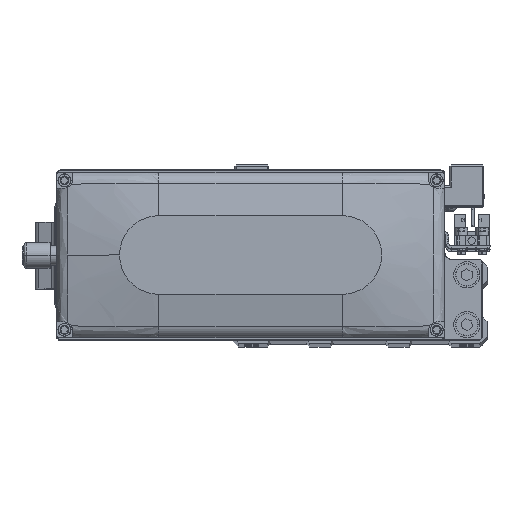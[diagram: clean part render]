
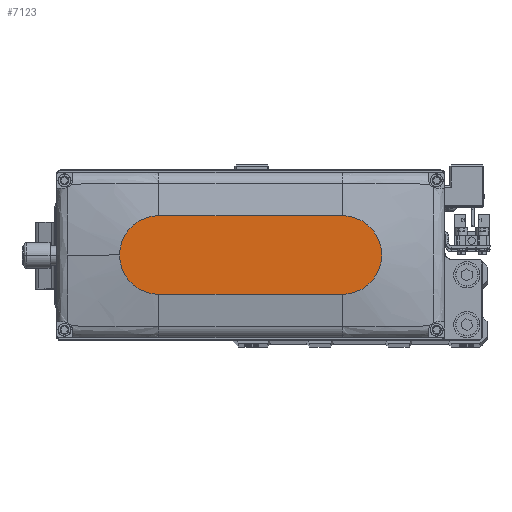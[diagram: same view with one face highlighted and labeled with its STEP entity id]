
A CAD part, top view. The second image highlights one B-rep face of the part: STEP entity #7123.
In plain terms, the highlighted planar face has unit normal (0, 0, 1).
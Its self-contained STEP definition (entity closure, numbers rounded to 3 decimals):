
#921 = AXIS2_PLACEMENT_3D ( 'NONE', #25040, #38208, #8563 ) ;
#2082 = CARTESIAN_POINT ( 'NONE',  ( 35., 0., 35. ) ) ;
#2226 = CARTESIAN_POINT ( 'NONE',  ( -35., -15., 35. ) ) ;
#6043 = VERTEX_POINT ( 'NONE', #35486 ) ;
#6355 = ORIENTED_EDGE ( 'NONE', *, *, #24272, .T. ) ;
#6441 = CIRCLE ( 'NONE', #30642, 15. ) ;
#7123 = ADVANCED_FACE ( 'NONE', ( #41357 ), #11722, .T. ) ;
#8456 = DIRECTION ( 'NONE',  ( 1., 0., 0. ) ) ;
#8563 = DIRECTION ( 'NONE',  ( 1., 0., 0. ) ) ;
#9232 = CARTESIAN_POINT ( 'NONE',  ( -35., 15., 35. ) ) ;
#9391 = CARTESIAN_POINT ( 'NONE',  ( 35., 15., 35. ) ) ;
#9891 = EDGE_CURVE ( 'NONE', #35141, #21901, #27557, .T. ) ;
#11108 = DIRECTION ( 'NONE',  ( 1., 0., 0. ) ) ;
#11722 = PLANE ( 'NONE',  #28700 ) ;
#11930 = VERTEX_POINT ( 'NONE', #26398 ) ;
#12317 = DIRECTION ( 'NONE',  ( 0., 0., 1. ) ) ;
#15303 = DIRECTION ( 'NONE',  ( 0., 0., 1. ) ) ;
#16101 = AXIS2_PLACEMENT_3D ( 'NONE', #41956, #12317, #25525 ) ;
#19595 = CIRCLE ( 'NONE', #921, 15. ) ;
#19829 = ORIENTED_EDGE ( 'NONE', *, *, #40527, .T. ) ;
#21901 = VERTEX_POINT ( 'NONE', #34664 ) ;
#22455 = DIRECTION ( 'NONE',  ( -1., 0., 0. ) ) ;
#24272 = EDGE_CURVE ( 'NONE', #40959, #11930, #38866, .T. ) ;
#24307 = VECTOR ( 'NONE', #22455, 1000. ) ;
#24928 = CARTESIAN_POINT ( 'NONE',  ( 0., 0., 35. ) ) ;
#25040 = CARTESIAN_POINT ( 'NONE',  ( 35., 0., 35. ) ) ;
#25375 = EDGE_CURVE ( 'NONE', #11930, #35141, #34739, .T. ) ;
#25525 = DIRECTION ( 'NONE',  ( 1., 0., 0. ) ) ;
#25611 = ORIENTED_EDGE ( 'NONE', *, *, #9891, .T. ) ;
#26016 = VECTOR ( 'NONE', #11108, 1000. ) ;
#26398 = CARTESIAN_POINT ( 'NONE',  ( -35., 15., 35. ) ) ;
#27509 = ORIENTED_EDGE ( 'NONE', *, *, #40504, .T. ) ;
#27557 = LINE ( 'NONE', #40737, #26016 ) ;
#28488 = DIRECTION ( 'NONE',  ( 1., 0., 0. ) ) ;
#28560 = EDGE_LOOP ( 'NONE', ( #6355, #30488, #25611, #19829, #27509 ) ) ;
#28700 = AXIS2_PLACEMENT_3D ( 'NONE', #24928, #38100, #8456 ) ;
#30488 = ORIENTED_EDGE ( 'NONE', *, *, #25375, .T. ) ;
#30642 = AXIS2_PLACEMENT_3D ( 'NONE', #2082, #15303, #28488 ) ;
#34664 = CARTESIAN_POINT ( 'NONE',  ( 35., -15., 35. ) ) ;
#34739 = CIRCLE ( 'NONE', #16101, 15. ) ;
#35141 = VERTEX_POINT ( 'NONE', #2226 ) ;
#35486 = CARTESIAN_POINT ( 'NONE',  ( 50., 0., 35. ) ) ;
#38100 = DIRECTION ( 'NONE',  ( 0., 0., 1. ) ) ;
#38208 = DIRECTION ( 'NONE',  ( 0., 0., 1. ) ) ;
#38866 = LINE ( 'NONE', #9232, #24307 ) ;
#40504 = EDGE_CURVE ( 'NONE', #6043, #40959, #19595, .T. ) ;
#40527 = EDGE_CURVE ( 'NONE', #21901, #6043, #6441, .T. ) ;
#40737 = CARTESIAN_POINT ( 'NONE',  ( -35., -15., 35. ) ) ;
#40959 = VERTEX_POINT ( 'NONE', #9391 ) ;
#41357 = FACE_OUTER_BOUND ( 'NONE', #28560, .T. ) ;
#41956 = CARTESIAN_POINT ( 'NONE',  ( -35., 0., 35. ) ) ;
